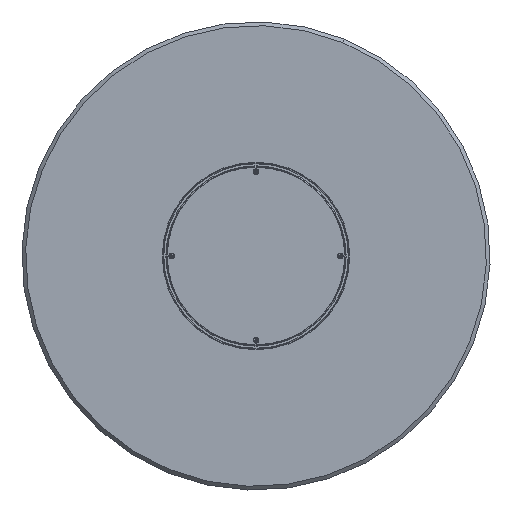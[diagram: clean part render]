
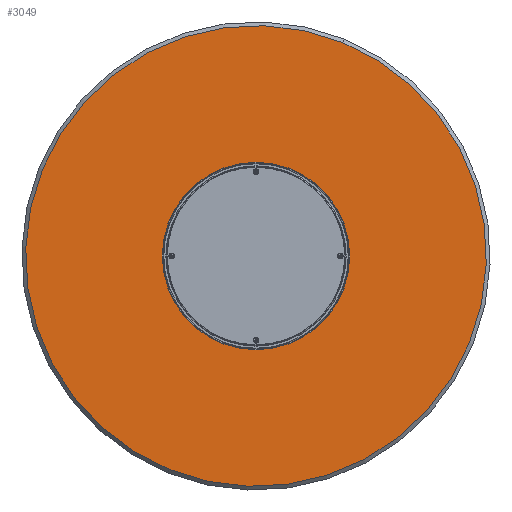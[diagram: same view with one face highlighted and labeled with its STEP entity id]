
A CAD part, front view. The second image highlights one B-rep face of the part: STEP entity #3049.
In plain terms, the highlighted planar face has unit normal (0, -1, 0).
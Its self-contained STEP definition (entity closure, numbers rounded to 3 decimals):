
#194 = DIRECTION ( 'NONE',  ( 0., 0., -1. ) ) ;
#206 = CIRCLE ( 'NONE', #542, 492. ) ;
#542 = AXIS2_PLACEMENT_3D ( 'NONE', #4998, #992, #194 ) ;
#992 = DIRECTION ( 'NONE',  ( 0., -1., 0. ) ) ;
#1689 = AXIS2_PLACEMENT_3D ( 'NONE', #7902, #7163, #5636 ) ;
#1874 = EDGE_CURVE ( 'NONE', #10119, #8544, #3189, .T. ) ;
#2618 = DIRECTION ( 'NONE',  ( 0., 0., -1. ) ) ;
#3049 = ADVANCED_FACE ( 'NONE', ( #6268 ), #10337, .T. ) ;
#3189 = CIRCLE ( 'NONE', #8253, 492. ) ;
#3365 = CARTESIAN_POINT ( 'NONE',  ( 0., 0., 492. ) ) ;
#4871 = ORIENTED_EDGE ( 'NONE', *, *, #9580, .T. ) ;
#4998 = CARTESIAN_POINT ( 'NONE',  ( 0., 0., 0. ) ) ;
#5636 = DIRECTION ( 'NONE',  ( 0., 0., -1. ) ) ;
#5729 = DIRECTION ( 'NONE',  ( 0., -1., 0. ) ) ;
#5787 = CARTESIAN_POINT ( 'NONE',  ( 0., 0., 0. ) ) ;
#6268 = FACE_OUTER_BOUND ( 'NONE', #8245, .T. ) ;
#6908 = CARTESIAN_POINT ( 'NONE',  ( 0., 0., -492. ) ) ;
#7163 = DIRECTION ( 'NONE',  ( 0., -1., 0. ) ) ;
#7902 = CARTESIAN_POINT ( 'NONE',  ( 0., 0., 0. ) ) ;
#8212 = ORIENTED_EDGE ( 'NONE', *, *, #1874, .T. ) ;
#8245 = EDGE_LOOP ( 'NONE', ( #4871, #8212 ) ) ;
#8253 = AXIS2_PLACEMENT_3D ( 'NONE', #5787, #5729, #2618 ) ;
#8544 = VERTEX_POINT ( 'NONE', #3365 ) ;
#9580 = EDGE_CURVE ( 'NONE', #8544, #10119, #206, .T. ) ;
#10119 = VERTEX_POINT ( 'NONE', #6908 ) ;
#10337 = PLANE ( 'NONE',  #1689 ) ;
